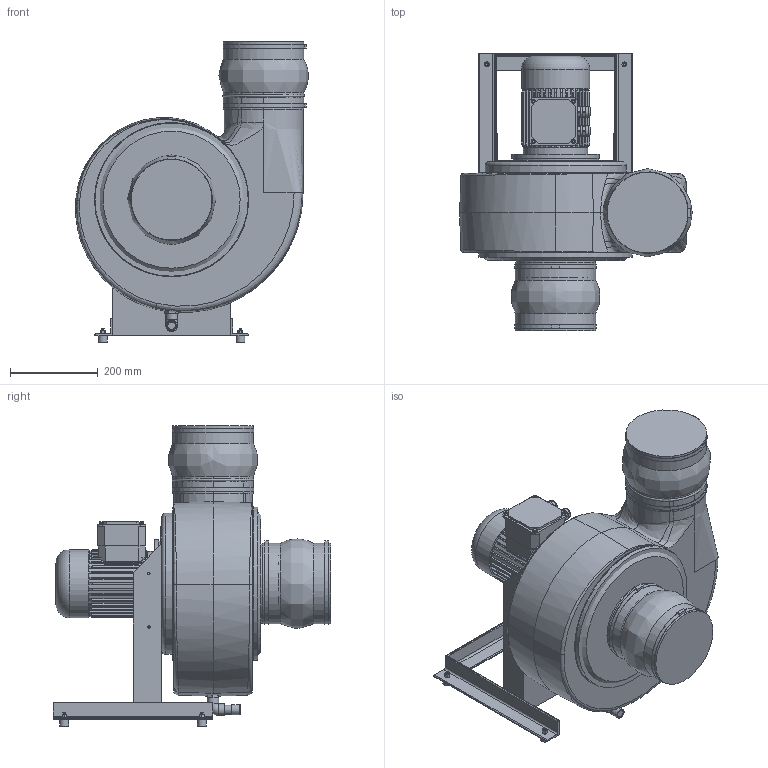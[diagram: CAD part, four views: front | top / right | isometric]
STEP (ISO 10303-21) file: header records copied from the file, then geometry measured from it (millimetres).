
FILE_DESCRIPTION( ( 'Unknown' ), '1' );
FILE_NAME( 'K:/HOME/HLT_CAD/Z/HF/3D/Zusammenstellung/HFR/HFR 15_17/HFR...-15D/DS_1/HFR_180-15D/GR360/HFR_180-15D_DS1_GR_360_080.stp', 'Unknown', ( 'Unknown' ), ( 'Unknown' ), 'PSStep 17.0.49', 'Unknown', ' ' );
FILE_SCHEMA( ( 'AUTOMOTIVE_DESIGN { 1 0 10303 214 1 1 1 1 }' ) );
Length unit declared in the file: millimetre
Products named in the file (30): Laufrad 180; Nabe 160-315; Deckscheibe 180; 1108_18; 5294_Gestell; Angle 40x40x4-oa0; Angle 40x40x4-oa1; Angle 40x40x4-oa2; 5294_Gehäusebefestigung-oa3; 5159_Kondensatablauf_125-315; Winkel_90°_G1_2; Stopfen_G1_2-oa4; Rohr_20; Verschlusskappe_20; 5217_Laufradbefestigung; 5217_Drehteil; 5217_Flachdichtung_Ø32; 5217_Schraubkappe; 5217_Flachdichtung_Ø63; 6203_Kugelmanschette; 6203_Manschettenband_HFR180; 6203_Schelle_HFR180; Assem1; 180 mit laufrad HF R 180; 6611_Motorring_Bg80; B5_80a_2HIHI; Schwidä_20x15; 6kant_M6; HFR 180_GR_abgeschn
Assembly tree (37 placements, depth 3):
  Assem1
    180 mit laufrad HF R 180
    6611_Motorring_Bg80
    B5_80a_2HIHI
    Schwidä_20x15  x4
    6kant_M6  x4
    HFR 180_GR_abgeschn
    5294_Gestell
      Angle 40x40x4-oa0
      Angle 40x40x4-oa1
      Angle 40x40x4-oa2
      5294_Gehäusebefestigung-oa3
    5159_Kondensatablauf_125-315
      Winkel_90°_G1_2
      Stopfen_G1_2-oa4
      Rohr_20
      Verschlusskappe_20
    6203_Kugelmanschette  x2
      6203_Manschettenband_HFR180
      6203_Schelle_HFR180
    Laufrad 180
      Nabe 160-315
      Laufrad 180
      Deckscheibe 180
      1108_18
    5217_Laufradbefestigung
      5217_Drehteil
      5217_Flachdichtung_Ø32
      5217_Schraubkappe
      5217_Flachdichtung_Ø63
Bounding box: 530.89 x 633 x 684.95 mm (x, y, z)
Volume: 57094668 mm3; surface area: 2535870.4 mm2
Topology: 34 solids, 34 shells, 1338 faces, 3238 edges, 2059 vertices
Faces by surface type: plane 737, cylinder 303, cone 128, bspline 126, torus 34, revolution 6, sphere 4
Full cylindrical faces by diameter (mm): 3.5 x3, 4.917 x5, 4.92 x4, 5.5 x4, 6 x8, 8 x6, 9 x2, 10 x4, 10.5 x1, 11 x12, 12 x5, 13 x9, 16 x2, 17 x1, 19 x1, 20 x8, 20.955 x1, 22.212 x1, 22.8 x1, 23 x1, 24 x4, 25 x1, 26.5 x2, 30.291 x1, 32 x1, 33.25 x1, 37 x1, 40 x1, 44 x1, 46 x1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
Entity records: 75462 total; most frequent: CARTESIAN_POINT 37200, ORIENTED_EDGE 5680, DIRECTION 5304, EDGE_CURVE 2840, AXIS2_PLACEMENT_3D 1949, VERTEX_POINT 1886, EDGE_LOOP 1576, LINE 1400
